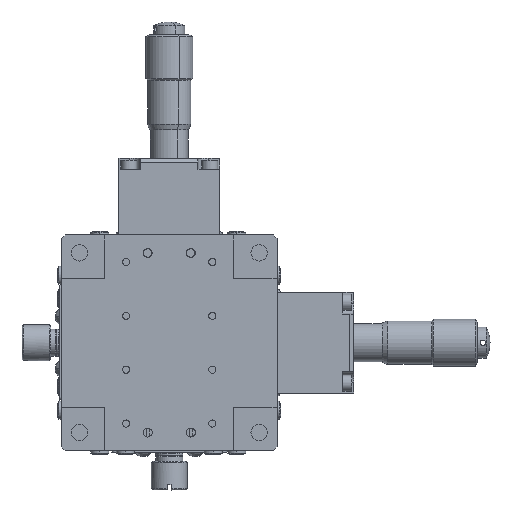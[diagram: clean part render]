
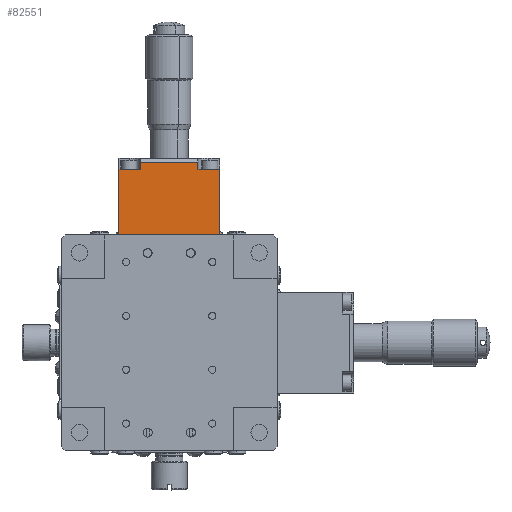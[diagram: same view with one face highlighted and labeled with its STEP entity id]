
A CAD part, front view. The second image highlights one B-rep face of the part: STEP entity #82551.
In plain terms, the highlighted planar face has unit normal (0, -1, 0).
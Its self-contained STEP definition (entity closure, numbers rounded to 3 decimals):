
#1028 = VERTEX_POINT ( 'NONE', #78727 ) ;
#1852 = CARTESIAN_POINT ( 'NONE',  ( 46., 0.2, -2. ) ) ;
#2564 = CARTESIAN_POINT ( 'NONE',  ( 24., 0.2, 16.3 ) ) ;
#3227 = DIRECTION ( 'NONE',  ( 1., 0., 0. ) ) ;
#4435 = DIRECTION ( 'NONE',  ( 0., 0., -1. ) ) ;
#7491 = VERTEX_POINT ( 'NONE', #24460 ) ;
#7541 = VECTOR ( 'NONE', #3227, 1000. ) ;
#9722 = LINE ( 'NONE', #58490, #30339 ) ;
#9977 = CARTESIAN_POINT ( 'NONE',  ( 40., 0.2, 8.15 ) ) ;
#10686 = VECTOR ( 'NONE', #51648, 1000. ) ;
#11271 = VECTOR ( 'NONE', #68115, 1000. ) ;
#13155 = LINE ( 'NONE', #28767, #10686 ) ;
#15021 = ORIENTED_EDGE ( 'NONE', *, *, #61893, .T. ) ;
#19662 = CARTESIAN_POINT ( 'NONE',  ( 18., 0.2, -2. ) ) ;
#21251 = CARTESIAN_POINT ( 'NONE',  ( 46., 0.2, 8.15 ) ) ;
#21489 = VERTEX_POINT ( 'NONE', #65049 ) ;
#21621 = EDGE_CURVE ( 'NONE', #78961, #21489, #58996, .T. ) ;
#22682 = ORIENTED_EDGE ( 'NONE', *, *, #56499, .T. ) ;
#23384 = DIRECTION ( 'NONE',  ( -1., 0., 0. ) ) ;
#24460 = CARTESIAN_POINT ( 'NONE',  ( 24., 0.2, 18.3 ) ) ;
#27273 = ORIENTED_EDGE ( 'NONE', *, *, #21621, .T. ) ;
#28767 = CARTESIAN_POINT ( 'NONE',  ( 32., 0.2, -2. ) ) ;
#29831 = CARTESIAN_POINT ( 'NONE',  ( 18., 0.2, 8.15 ) ) ;
#30339 = VECTOR ( 'NONE', #4435, 1000. ) ;
#32554 = LINE ( 'NONE', #85163, #53048 ) ;
#32701 = VECTOR ( 'NONE', #87441, 1000. ) ;
#32998 = EDGE_LOOP ( 'NONE', ( #15021, #27273, #78349, #22682, #66552, #59813, #83740, #96527 ) ) ;
#35168 = LINE ( 'NONE', #9977, #32701 ) ;
#38396 = DIRECTION ( 'NONE',  ( 0., -1., 0. ) ) ;
#40442 = CARTESIAN_POINT ( 'NONE',  ( 18., 0.2, 16.3 ) ) ;
#41885 = CARTESIAN_POINT ( 'NONE',  ( 43., 0.2, 16.3 ) ) ;
#45823 = PLANE ( 'NONE',  #57007 ) ;
#48669 = LINE ( 'NONE', #41885, #7541 ) ;
#49792 = FACE_OUTER_BOUND ( 'NONE', #32998, .T. ) ;
#49848 = VERTEX_POINT ( 'NONE', #19662 ) ;
#51648 = DIRECTION ( 'NONE',  ( 1., 0., 0. ) ) ;
#53048 = VECTOR ( 'NONE', #23384, 1000. ) ;
#55508 = CARTESIAN_POINT ( 'NONE',  ( 40., 0.2, 16.3 ) ) ;
#56499 = EDGE_CURVE ( 'NONE', #85917, #1028, #35168, .T. ) ;
#57007 = AXIS2_PLACEMENT_3D ( 'NONE', #84367, #38396, #92128 ) ;
#58490 = CARTESIAN_POINT ( 'NONE',  ( 24., 0.2, 8.15 ) ) ;
#58996 = LINE ( 'NONE', #21251, #79387 ) ;
#59813 = ORIENTED_EDGE ( 'NONE', *, *, #82918, .T. ) ;
#61893 = EDGE_CURVE ( 'NONE', #49848, #78961, #13155, .T. ) ;
#62253 = VERTEX_POINT ( 'NONE', #40442 ) ;
#65049 = CARTESIAN_POINT ( 'NONE',  ( 46., 0.2, 16.3 ) ) ;
#66030 = EDGE_CURVE ( 'NONE', #85917, #21489, #48669, .T. ) ;
#66552 = ORIENTED_EDGE ( 'NONE', *, *, #88337, .T. ) ;
#67272 = DIRECTION ( 'NONE',  ( 0., 0., 1. ) ) ;
#68115 = DIRECTION ( 'NONE',  ( 0., 0., -1. ) ) ;
#68441 = EDGE_CURVE ( 'NONE', #62253, #49848, #93189, .T. ) ;
#78349 = ORIENTED_EDGE ( 'NONE', *, *, #66030, .F. ) ;
#78727 = CARTESIAN_POINT ( 'NONE',  ( 40., 0.2, 18.3 ) ) ;
#78961 = VERTEX_POINT ( 'NONE', #1852 ) ;
#79387 = VECTOR ( 'NONE', #67272, 1000. ) ;
#82551 = ADVANCED_FACE ( 'NONE', ( #49792 ), #45823, .T. ) ;
#82918 = EDGE_CURVE ( 'NONE', #7491, #90375, #9722, .T. ) ;
#83740 = ORIENTED_EDGE ( 'NONE', *, *, #98979, .T. ) ;
#84367 = CARTESIAN_POINT ( 'NONE',  ( 18., 0.2, -2. ) ) ;
#85163 = CARTESIAN_POINT ( 'NONE',  ( 32., 0.2, 18.3 ) ) ;
#85661 = CARTESIAN_POINT ( 'NONE',  ( 32., 0.2, 16.3 ) ) ;
#85917 = VERTEX_POINT ( 'NONE', #55508 ) ;
#87441 = DIRECTION ( 'NONE',  ( 0., 0., 1. ) ) ;
#88337 = EDGE_CURVE ( 'NONE', #1028, #7491, #32554, .T. ) ;
#90375 = VERTEX_POINT ( 'NONE', #2564 ) ;
#92128 = DIRECTION ( 'NONE',  ( 1., 0., 0. ) ) ;
#93189 = LINE ( 'NONE', #29831, #11271 ) ;
#93736 = DIRECTION ( 'NONE',  ( -1., 0., 0. ) ) ;
#96527 = ORIENTED_EDGE ( 'NONE', *, *, #68441, .T. ) ;
#96583 = VECTOR ( 'NONE', #93736, 1000. ) ;
#98958 = LINE ( 'NONE', #85661, #96583 ) ;
#98979 = EDGE_CURVE ( 'NONE', #90375, #62253, #98958, .T. ) ;
